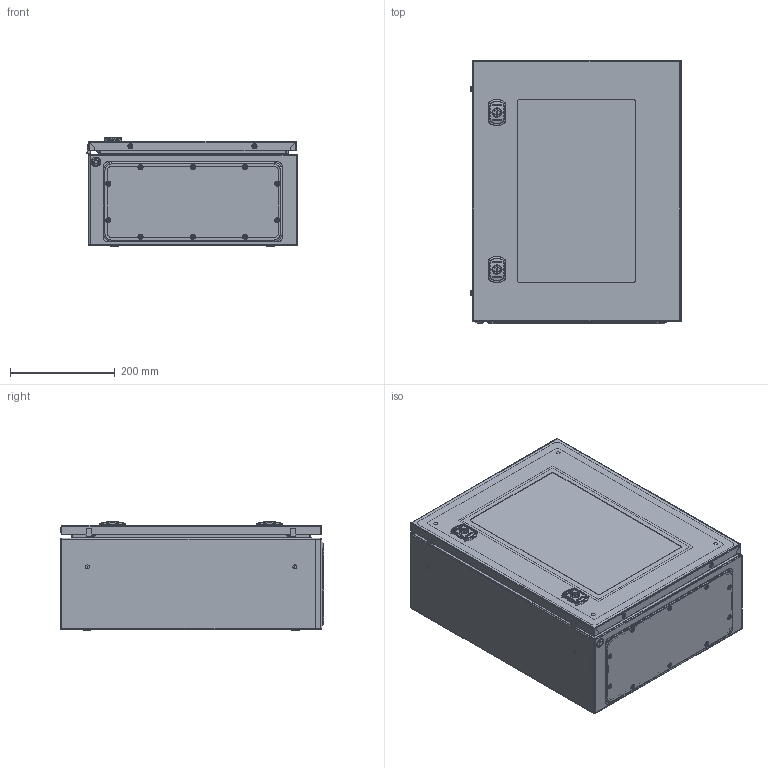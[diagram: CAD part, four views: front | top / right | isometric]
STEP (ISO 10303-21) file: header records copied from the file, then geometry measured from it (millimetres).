
FILE_DESCRIPTION (( 'STEP AP203' ), '1' );
FILE_NAME ('R5STX0542.STEP', '2022-04-28T09:06:28', ( '' ), ( '' ), 'SwSTEP 2.0', 'SolidWorks 2020', '' );
FILE_SCHEMA (( 'CONFIG_CONTROL_DESIGN' ));
Length unit declared in the file: millimetre
Products named in the file (41): RB.2070.00.00.0; M6x16 DIN 7985 PZ cl.4,8 Zinc_straight; RB.0048.05.00.0 捘_-03; A7100032-R; Glass ST_0500x0400; PT Ì6õ16 Cu ISO13918_straight; R5STX0542; PF 7,5x15 door ST_0500x0400; RB.0048.00.02.1_-01; AC00C316-R; RB.0048.01.01.1_-12; M4x6 DIN 7985 PH cl.4,8 Zinc_straight; RB.2171.00.00.0 捘; 娗p ST; TPA.08.0002.00.00.0; RB.2171.00.01.0; RB.0048.06.00.0 捘_-03; Pin 1.2x12 GOST 3128-70; RB.0048.01.02.0_-07; M4x10 DIN 7500 M PZ cl.4,8 Zinc_straight; TPA.08.0001.00.00.0; RB.0048.01.00.1 C縫-12; Ì6õ12 A5100231_straight; PT Ì8õ25 cl.4.8 Cu ISO13918_straight; TPA.08.0060.00.00.0 捘; RB.2238.00.00.0; AC00C343-R; TPA.08.0003.00.00.0; M8 DIN 6923 cl.8,0 Zinc_straight; RB.2237.00.00.0; AC00C317-R; RB.0048.11.00.0 C縫-02; RB.0048.02.00.1 C縫-12; AC00C348-R; AC00C380-R; RB.0048.05.01.0_-03; Glue ST_0500x0400; RB.0048.11.01.0_-02; PF 4x8 flange ST_02; AC00C112-R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
Assembly tree (71 placements, depth 4):
  R5STX0542
    RB.0048.02.00.1 C縫-12
      RB.0048.01.00.1 C縫-12
        RB.0048.01.01.1_-12
        RB.0048.01.02.0_-07
        PT Ì8õ25 cl.4.8 Cu ISO13918_straight  x4
        PT Ì6õ16 Cu ISO13918_straight  x4
      AC00C317-R  x4
      AC00C316-R
      RB.2171.00.00.0 捘  x2
        RB.2171.00.01.0
        Pin 1.2x12 GOST 3128-70
      娗p ST  x2
      M4x6 DIN 7985 PH cl.4,8 Zinc_straight  x2
    RB.0048.11.00.0 C縫-02
      RB.0048.11.01.0_-02
      PF 4x8 flange ST_02
    RB.2238.00.00.0  x2
    M8 DIN 6923 cl.8,0 Zinc_straight  x4
    RB.0048.06.00.0 捘_-03
      RB.0048.05.00.0 捘_-03
        RB.0048.05.01.0_-03
        RB.2237.00.00.0  x2
        Ì6õ12 A5100231_straight  x4
      TPA.08.0060.00.00.0 捘  x2
        A7100032-R
        AC00C343-R
        AC00C348-R
        TPA.08.0001.00.00.0
        TPA.08.0002.00.00.0
        TPA.08.0003.00.00.0
        M6x16 DIN 7985 PZ cl.4,8 Zinc_straight
      AC00C112-R  x4
      PF 7,5x15 door ST_0500x0400
      Glass ST_0500x0400
      Glue ST_0500x0400
      AC00C356-R_AC00c356(A7100031)  x2
    AC00C380-R  x2
    RB.0048.00.02.1_-01
    RB.2070.00.00.0  x4
    M4x10 DIN 7500 M PZ cl.4,8 Zinc_straight  x2
Bounding box: 403.1 x 503.5 x 208.18 mm (x, y, z)
Volume: 1987401.3 mm3; surface area: 2245934.9 mm2
Topology: 72 solids, 72 shells, 4576 faces, 11337 edges, 7063 vertices
Faces by surface type: plane 2007, cylinder 1367, bspline 464, torus 400, cone 260, sphere 78
Entity records: 106837 total; most frequent: CARTESIAN_POINT 32168, ORIENTED_EDGE 14612, DIRECTION 14125, EDGE_CURVE 7306, AXIS2_PLACEMENT_3D 4873, VERTEX_POINT 4598, LINE 4379, VECTOR 4379
